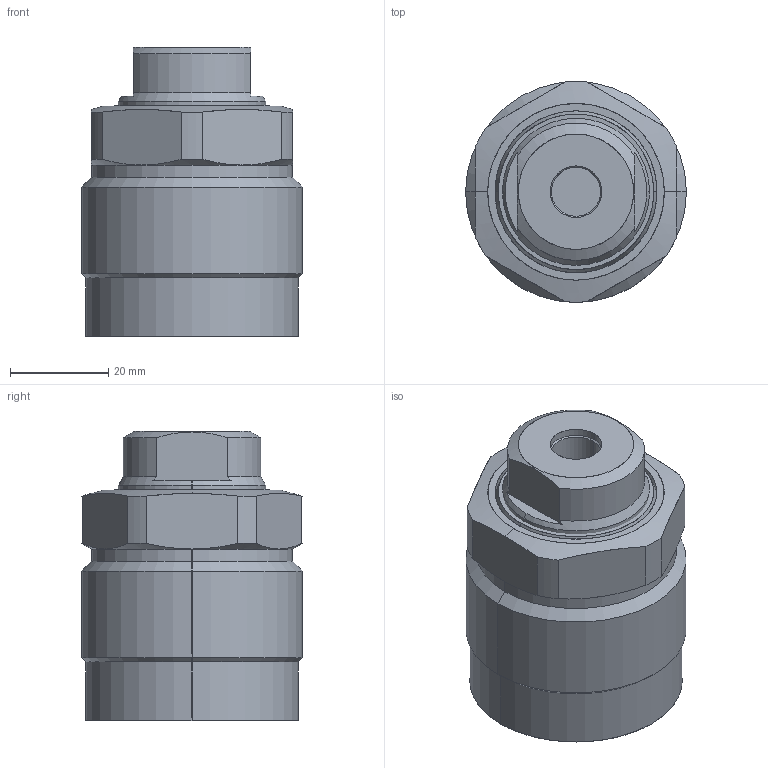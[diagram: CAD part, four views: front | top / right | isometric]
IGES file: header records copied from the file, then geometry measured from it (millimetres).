
Start section: SolidWorks IGES file using analytic representation for surfaces
Global section: file name: D:\abhilash\nijil\cylinder\Clasys1\dp converted\06\pt\0601\0102-0601.IGS; native system: SolidWorks 2010; preprocessor: SolidWorks 2010; author: nidheesh; date: 130730.113308; units: millimetre
Bounding box: 45 x 45 x 59 mm (x, y, z)
Surface area: 13405.3 mm2 (no closed solid volume)
Topology: 0 solids, 0 shells, 70 faces, 1200 edges, 1200 vertices
Faces by surface type: revolution 46, bspline 24
